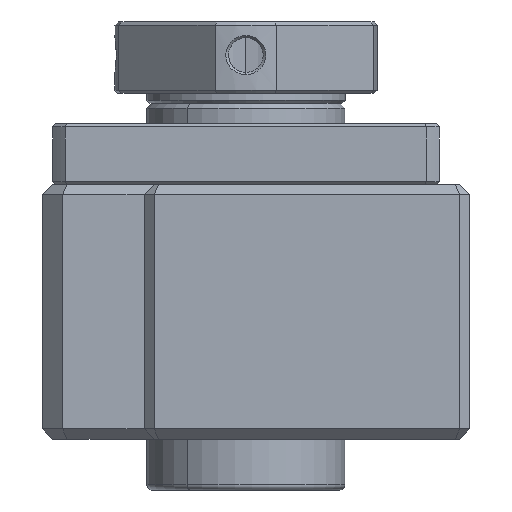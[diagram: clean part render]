
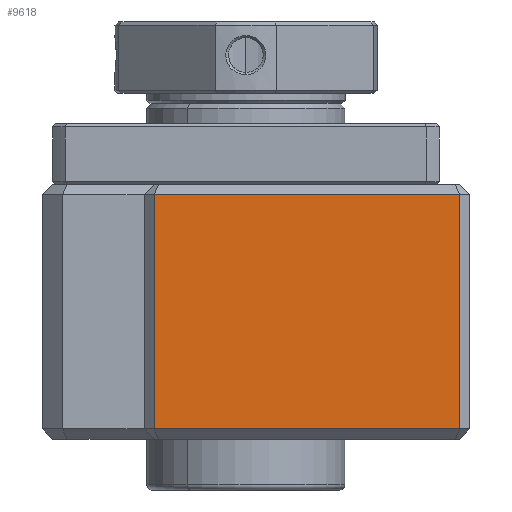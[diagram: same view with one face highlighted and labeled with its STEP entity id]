
A CAD part, left-side view. The second image highlights one B-rep face of the part: STEP entity #9618.
In plain terms, the highlighted planar face has unit normal (-1, 0, 0).
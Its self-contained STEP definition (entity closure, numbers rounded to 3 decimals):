
#111 = CARTESIAN_POINT ( 'NONE',  ( 0., 31., 1. ) ) ;
#215 = CARTESIAN_POINT ( 'NONE',  ( 0., 1., 1. ) ) ;
#502 = PLANE ( 'NONE',  #4520 ) ;
#792 = VERTEX_POINT ( 'NONE', #215 ) ;
#1078 = VECTOR ( 'NONE', #1797, 1000. ) ;
#1797 = DIRECTION ( 'NONE',  ( 0., 0., -1. ) ) ;
#2010 = VECTOR ( 'NONE', #9376, 1000. ) ;
#2238 = CARTESIAN_POINT ( 'NONE',  ( 0., 1., 24. ) ) ;
#2243 = DIRECTION ( 'NONE',  ( 0., 0., 1. ) ) ;
#2303 = VECTOR ( 'NONE', #2243, 1000. ) ;
#2482 = EDGE_LOOP ( 'NONE', ( #9902, #9339, #4304, #9136 ) ) ;
#3160 = CARTESIAN_POINT ( 'NONE',  ( 0., 1., 25. ) ) ;
#3189 = DIRECTION ( 'NONE',  ( 0., 1., 0. ) ) ;
#3437 = LINE ( 'NONE', #7189, #1078 ) ;
#4038 = DIRECTION ( 'NONE',  ( 0., 0., -1. ) ) ;
#4304 = ORIENTED_EDGE ( 'NONE', *, *, #7832, .T. ) ;
#4520 = AXIS2_PLACEMENT_3D ( 'NONE', #8482, #9349, #4038 ) ;
#4628 = VERTEX_POINT ( 'NONE', #6512 ) ;
#5726 = FACE_OUTER_BOUND ( 'NONE', #2482, .T. ) ;
#5982 = VECTOR ( 'NONE', #3189, 1000. ) ;
#6264 = LINE ( 'NONE', #10304, #5982 ) ;
#6512 = CARTESIAN_POINT ( 'NONE',  ( 0., 31., 24. ) ) ;
#6829 = LINE ( 'NONE', #9344, #2010 ) ;
#7189 = CARTESIAN_POINT ( 'NONE',  ( 0., 31., 25. ) ) ;
#7685 = EDGE_CURVE ( 'NONE', #4628, #10379, #3437, .T. ) ;
#7815 = EDGE_CURVE ( 'NONE', #10379, #792, #6829, .T. ) ;
#7832 = EDGE_CURVE ( 'NONE', #792, #10094, #9137, .T. ) ;
#7878 = EDGE_CURVE ( 'NONE', #10094, #4628, #6264, .T. ) ;
#8482 = CARTESIAN_POINT ( 'NONE',  ( 0., 0., 25. ) ) ;
#9136 = ORIENTED_EDGE ( 'NONE', *, *, #7878, .T. ) ;
#9137 = LINE ( 'NONE', #3160, #2303 ) ;
#9339 = ORIENTED_EDGE ( 'NONE', *, *, #7815, .T. ) ;
#9344 = CARTESIAN_POINT ( 'NONE',  ( 0., 1., 1. ) ) ;
#9349 = DIRECTION ( 'NONE',  ( 1., 0., 0. ) ) ;
#9376 = DIRECTION ( 'NONE',  ( 0., -1., 0. ) ) ;
#9618 = ADVANCED_FACE ( 'NONE', ( #5726 ), #502, .F. ) ;
#9902 = ORIENTED_EDGE ( 'NONE', *, *, #7685, .T. ) ;
#10094 = VERTEX_POINT ( 'NONE', #2238 ) ;
#10304 = CARTESIAN_POINT ( 'NONE',  ( 0., 0., 24. ) ) ;
#10379 = VERTEX_POINT ( 'NONE', #111 ) ;
